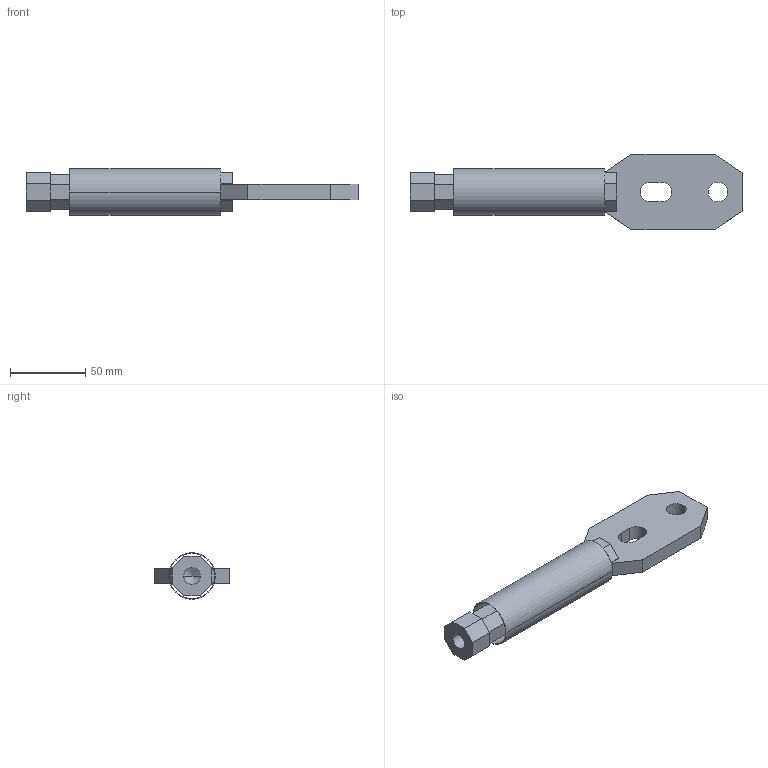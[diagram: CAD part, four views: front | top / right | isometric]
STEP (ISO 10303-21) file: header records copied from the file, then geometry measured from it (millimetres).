
FILE_DESCRIPTION((''),'2;1');
FILE_NAME('U8_LONG_LO_REAR_CONDUCTOR_ASSY_ASM','2018-06-04T',('HHI'),(''),'PRO/ENGINEER BY PARAMETRIC TECHNOLOGY CORPORATION, 2012453','PRO/ENGINEER BY PARAMETRIC TECHNOLOGY CORPORATION, 2012453','');
FILE_SCHEMA(('CONFIG_CONTROL_DESIGN'));
Length unit declared in the file: millimetre
Products named in the file (4): U8_LONG_LOAD_REAR_CONDUCTOR_AF0; U8_REAR_BUSBAR; U8_RCT_INSULATION_TUBE; U8_LONG_LO_REAR_CONDUCTOR_ASSY_ASM
Assembly tree (3 placements, depth 2):
  U8_LONG_LO_REAR_CONDUCTOR_ASSY_ASM
    U8_LONG_LOAD_REAR_CONDUCTOR_AF0
    U8_REAR_BUSBAR
    U8_RCT_INSULATION_TUBE
Bounding box: 220 x 50 x 30.8 mm (x, y, z)
Volume: 110114.7 mm3; surface area: 44244.3 mm2
Topology: 3 solids, 3 shells, 152 faces, 409 edges, 271 vertices
Faces by surface type: plane 140, cylinder 10, cone 2
Entity records: 4783 total; most frequent: CARTESIAN_POINT 837, ORIENTED_EDGE 814, DIRECTION 745, EDGE_CURVE 407, VECTOR 387, LINE 387, VERTEX_POINT 271, AXIS2_PLACEMENT_3D 179
